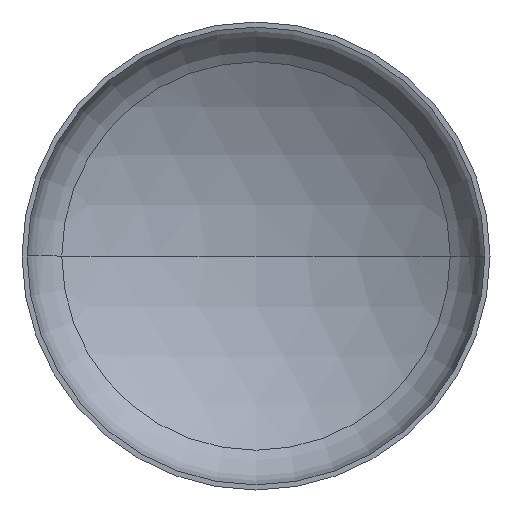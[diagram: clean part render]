
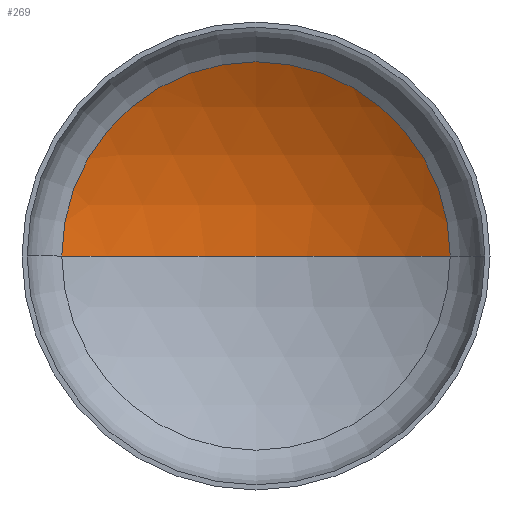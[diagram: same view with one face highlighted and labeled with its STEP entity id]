
A CAD part, front view. The second image highlights one B-rep face of the part: STEP entity #269.
In plain terms, the highlighted spherical face has radius 6000 mm.
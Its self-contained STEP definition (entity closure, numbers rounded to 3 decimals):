
#9 = DIRECTION ( 'NONE',  ( 0., 0., -1. ) ) ;
#25 = DIRECTION ( 'NONE',  ( -1., 0., 0. ) ) ;
#27 = VERTEX_POINT ( 'NONE', #160 ) ;
#28 = AXIS2_PLACEMENT_3D ( 'NONE', #192, #214, #25 ) ;
#32 = CARTESIAN_POINT ( 'NONE',  ( 3112.074, 1087.489, 0. ) ) ;
#38 = ORIENTED_EDGE ( 'NONE', *, *, #135, .F. ) ;
#72 = AXIS2_PLACEMENT_3D ( 'NONE', #342, #211, #371 ) ;
#73 = AXIS2_PLACEMENT_3D ( 'NONE', #253, #9, #275 ) ;
#80 = AXIS2_PLACEMENT_3D ( 'NONE', #99, #297, #163 ) ;
#99 = CARTESIAN_POINT ( 'NONE',  ( 0., 1087.489, 0. ) ) ;
#123 = EDGE_CURVE ( 'NONE', #366, #142, #398, .T. ) ;
#126 = ORIENTED_EDGE ( 'NONE', *, *, #123, .T. ) ;
#129 = EDGE_LOOP ( 'NONE', ( #38, #138, #126 ) ) ;
#133 = EDGE_CURVE ( 'NONE', #27, #366, #336, .T. ) ;
#135 = EDGE_CURVE ( 'NONE', #27, #142, #218, .T. ) ;
#138 = ORIENTED_EDGE ( 'NONE', *, *, #133, .T. ) ;
#142 = VERTEX_POINT ( 'NONE', #300 ) ;
#160 = CARTESIAN_POINT ( 'NONE',  ( 0., 1957.675, 0. ) ) ;
#163 = DIRECTION ( 'NONE',  ( 1., 0., 0. ) ) ;
#189 = FACE_OUTER_BOUND ( 'NONE', #129, .T. ) ;
#192 = CARTESIAN_POINT ( 'NONE',  ( 0., -4042.325, 0. ) ) ;
#201 = SPHERICAL_SURFACE ( 'NONE', #28, 6000. ) ;
#211 = DIRECTION ( 'NONE',  ( 0., 0., 1. ) ) ;
#214 = DIRECTION ( 'NONE',  ( 0., 0., -1. ) ) ;
#218 = CIRCLE ( 'NONE', #72, 6000. ) ;
#253 = CARTESIAN_POINT ( 'NONE',  ( 0., -4042.325, 0. ) ) ;
#269 = ADVANCED_FACE ( 'NONE', ( #189 ), #201, .F. ) ;
#275 = DIRECTION ( 'NONE',  ( -1., 0., 0. ) ) ;
#297 = DIRECTION ( 'NONE',  ( 0., -1., 0. ) ) ;
#300 = CARTESIAN_POINT ( 'NONE',  ( -3112.074, 1087.489, 0. ) ) ;
#336 = CIRCLE ( 'NONE', #73, 6000. ) ;
#342 = CARTESIAN_POINT ( 'NONE',  ( 0., -4042.325, 0. ) ) ;
#366 = VERTEX_POINT ( 'NONE', #32 ) ;
#371 = DIRECTION ( 'NONE',  ( 1., 0., 0. ) ) ;
#398 = CIRCLE ( 'NONE', #80, 3112.074 ) ;
